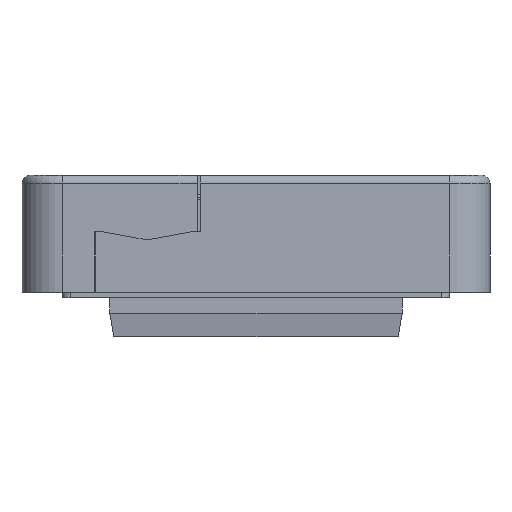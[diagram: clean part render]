
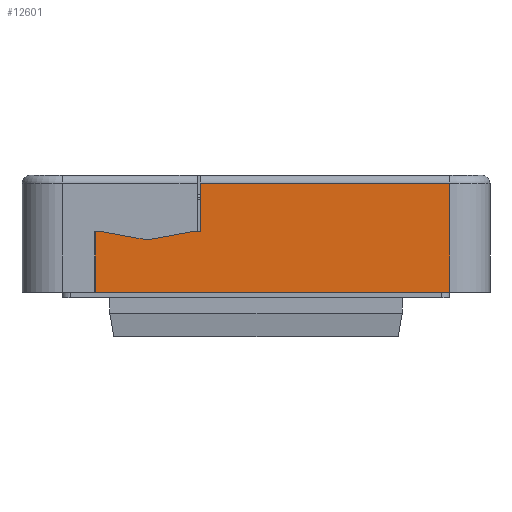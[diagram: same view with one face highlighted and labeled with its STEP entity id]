
A CAD part, left-side view. The second image highlights one B-rep face of the part: STEP entity #12601.
In plain terms, the highlighted planar face has unit normal (-1, 0, 0) as drawn and (1, 0, 0) by its records, which use the part's own axes.
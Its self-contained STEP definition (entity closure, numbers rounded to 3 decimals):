
#1299=FACE_OUTER_BOUND('',#2015,.T.);
#2015=EDGE_LOOP('',(#10368,#10369,#10370,#10371,#10372,#10373,#10374,#10375,
#10376));
#3134=LINE('',#20001,#4454);
#3140=LINE('',#20013,#4460);
#3143=LINE('',#20019,#4463);
#3144=LINE('',#20021,#4464);
#3145=LINE('',#20023,#4465);
#3146=LINE('',#20025,#4466);
#3147=LINE('',#20027,#4467);
#3148=LINE('',#20029,#4468);
#3149=LINE('',#20030,#4469);
#4454=VECTOR('',#15775,10.);
#4460=VECTOR('',#15783,10.);
#4463=VECTOR('',#15788,10.);
#4464=VECTOR('',#15789,10.);
#4465=VECTOR('',#15790,10.);
#4466=VECTOR('',#15791,10.);
#4467=VECTOR('',#15792,10.);
#4468=VECTOR('',#15793,10.);
#4469=VECTOR('',#15794,10.);
#5733=VERTEX_POINT('',#19999);
#5734=VERTEX_POINT('',#20000);
#5739=VERTEX_POINT('',#20012);
#5741=VERTEX_POINT('',#20018);
#5742=VERTEX_POINT('',#20020);
#5743=VERTEX_POINT('',#20022);
#5744=VERTEX_POINT('',#20024);
#5745=VERTEX_POINT('',#20026);
#5746=VERTEX_POINT('',#20028);
#7355=EDGE_CURVE('',#5733,#5734,#3134,.T.);
#7361=EDGE_CURVE('',#5739,#5733,#3140,.T.);
#7364=EDGE_CURVE('',#5741,#5734,#3143,.T.);
#7365=EDGE_CURVE('',#5742,#5741,#3144,.T.);
#7366=EDGE_CURVE('',#5743,#5742,#3145,.T.);
#7367=EDGE_CURVE('',#5743,#5744,#3146,.T.);
#7368=EDGE_CURVE('',#5744,#5745,#3147,.T.);
#7369=EDGE_CURVE('',#5745,#5746,#3148,.T.);
#7370=EDGE_CURVE('',#5746,#5739,#3149,.T.);
#10368=ORIENTED_EDGE('',*,*,#7355,.T.);
#10369=ORIENTED_EDGE('',*,*,#7364,.F.);
#10370=ORIENTED_EDGE('',*,*,#7365,.F.);
#10371=ORIENTED_EDGE('',*,*,#7366,.F.);
#10372=ORIENTED_EDGE('',*,*,#7367,.T.);
#10373=ORIENTED_EDGE('',*,*,#7368,.T.);
#10374=ORIENTED_EDGE('',*,*,#7369,.T.);
#10375=ORIENTED_EDGE('',*,*,#7370,.T.);
#10376=ORIENTED_EDGE('',*,*,#7361,.T.);
#12006=PLANE('',#13502);
#12601=ADVANCED_FACE('',(#1299),#12006,.T.);
#13502=AXIS2_PLACEMENT_3D('',#20017,#15786,#15787);
#15775=DIRECTION('',(0.,0.,1.));
#15783=DIRECTION('',(0.,1.,0.));
#15786=DIRECTION('center_axis',(1.,0.,0.));
#15787=DIRECTION('ref_axis',(0.,0.,-1.));
#15788=DIRECTION('',(0.,1.,0.));
#15789=DIRECTION('',(0.,0.,1.));
#15790=DIRECTION('',(0.,-1.,0.));
#15791=DIRECTION('',(0.,0.,1.));
#15792=DIRECTION('',(0.,1.,0.));
#15793=DIRECTION('',(0.,0.984,0.179));
#15794=DIRECTION('',(0.,0.984,-0.179));
#19999=CARTESIAN_POINT('',(60.5,19.9,-8.));
#20000=CARTESIAN_POINT('',(60.5,19.9,-0.5));
#20001=CARTESIAN_POINT('',(60.5,19.9,-2.554));
#20012=CARTESIAN_POINT('',(60.5,19.,-8.));
#20013=CARTESIAN_POINT('',(60.5,-3.75,-8.));
#20017=CARTESIAN_POINT('Origin',(60.5,-27.5,0.));
#20018=CARTESIAN_POINT('',(60.5,-24.,-0.5));
#20019=CARTESIAN_POINT('',(60.5,-29.,-0.5));
#20020=CARTESIAN_POINT('',(60.5,-24.,-14.));
#20021=CARTESIAN_POINT('',(60.5,-24.,-0.25));
#20022=CARTESIAN_POINT('',(60.5,6.9,-14.));
#20023=CARTESIAN_POINT('',(60.5,-13.75,-14.));
#20024=CARTESIAN_POINT('',(60.5,6.9,-8.));
#20025=CARTESIAN_POINT('',(60.5,6.9,-5.928));
#20026=CARTESIAN_POINT('',(60.5,8.,-8.));
#20027=CARTESIAN_POINT('',(60.5,-3.75,-8.));
#20028=CARTESIAN_POINT('',(60.5,13.5,-7.));
#20029=CARTESIAN_POINT('',(60.5,-5.728,-10.496));
#20030=CARTESIAN_POINT('',(60.5,-4.21,-3.78));
